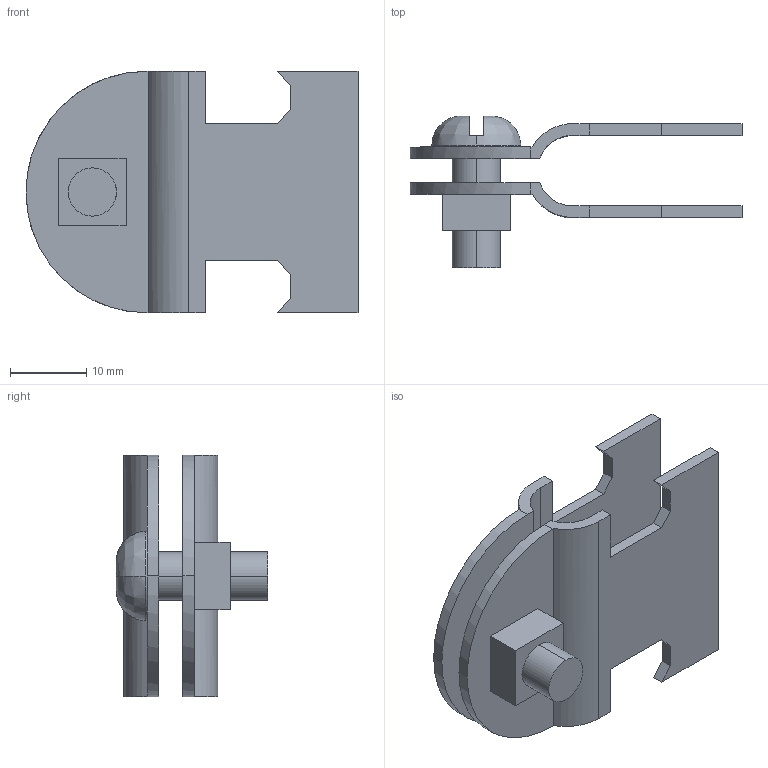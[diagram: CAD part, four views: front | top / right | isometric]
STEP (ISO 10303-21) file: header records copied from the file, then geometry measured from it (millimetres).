
FILE_DESCRIPTION(('TurboCAD Mac Pro'),'Build 980');
FILE_NAME('P2025.stp',' ',(''),(''),'ACIS Interop','IMSI','TurboCAD Mac Pro BY IMSI, INCORPORATED');
FILE_SCHEMA(('automotive_design'));
Length unit declared in the file: inch
Products named in the file (5): 1; 2; 3; 4; 5
Bounding box: 43.66 x 19.94 x 31.74 mm (x, y, z)
Volume: 4590.7 mm3; surface area: 6207.8 mm2
Topology: 4 solids, 4 shells, 75 faces, 194 edges, 128 vertices
Faces by surface type: plane 51, bspline 24
Entity records: 4437 total; most frequent: CARTESIAN_POINT 1154, ORIENTED_EDGE 388, DIRECTION 262, STYLED_ITEM 249, PRESENTATION_STYLE_ASSIGNMENT 249, COLOUR_RGB 249, EDGE_CURVE 194, CURVE_STYLE 170
